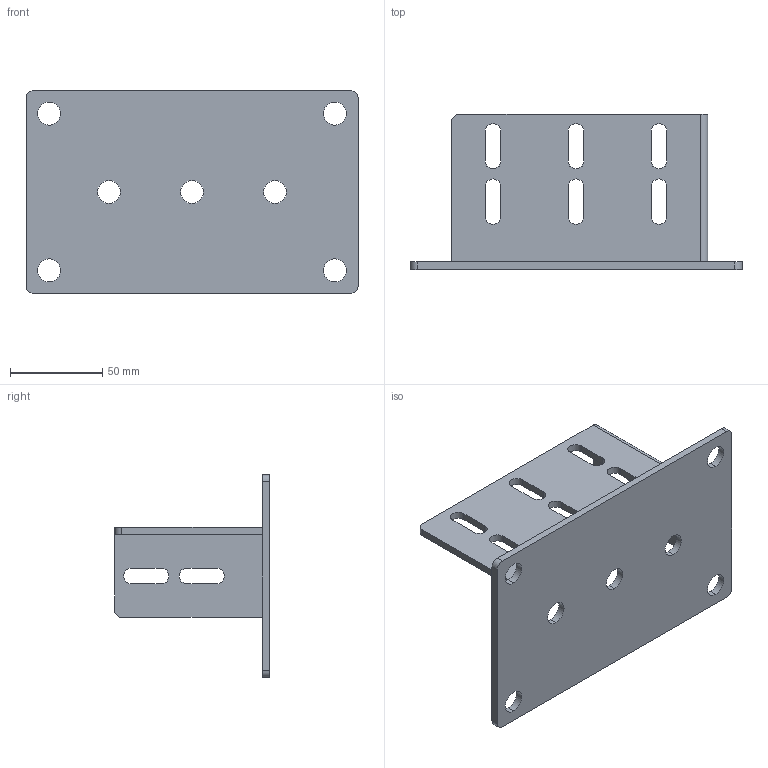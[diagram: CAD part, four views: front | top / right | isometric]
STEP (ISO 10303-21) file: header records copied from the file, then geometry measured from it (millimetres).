
FILE_DESCRIPTION (( 'STEP AP214' ), '1' );
FILE_NAME ('11454.STEP', '2023-03-06T07:50:06', ( '' ), ( '' ), 'SwSTEP 2.0', 'SolidWorks 2020', '' );
FILE_SCHEMA (( 'AUTOMOTIVE_DESIGN' ));
Length unit declared in the file: millimetre
Products named in the file (5): 栺樇罻 1; ﾎ魵瑙韃; 11454; 栺樇罻 2; 栱僦罻
Assembly tree (5 placements, depth 2):
  11454
    栺樇罻 2
    栺樇罻 1
    栱僦罻
    ﾎ魵瑙韃  x2
Bounding box: 180 x 84 x 110 mm (x, y, z)
Volume: 203827.9 mm3; surface area: 113948 mm2
Topology: 5 solids, 5 shells, 99 faces, 267 edges, 178 vertices
Faces by surface type: cylinder 55, plane 44
Entity records: 2635 total; most frequent: DIRECTION 441, CARTESIAN_POINT 418, ORIENTED_EDGE 402, EDGE_CURVE 201, AXIS2_PLACEMENT_3D 157, VERTEX_POINT 134, LINE 127, VECTOR 127
